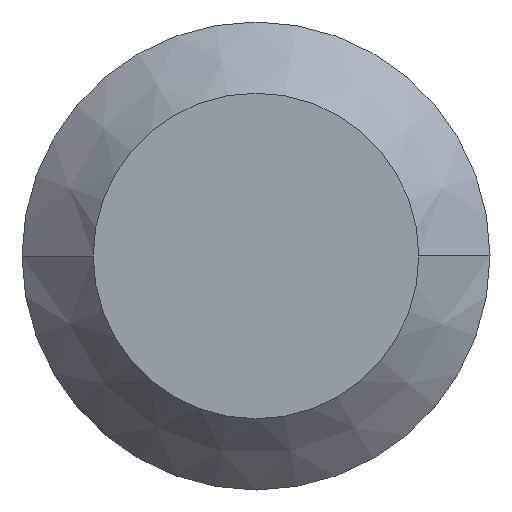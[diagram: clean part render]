
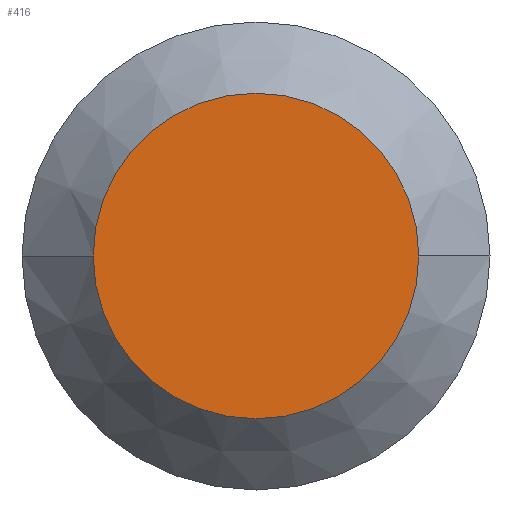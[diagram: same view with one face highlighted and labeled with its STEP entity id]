
A CAD part, front view. The second image highlights one B-rep face of the part: STEP entity #416.
In plain terms, the highlighted planar face has unit normal (0, -1, 0).
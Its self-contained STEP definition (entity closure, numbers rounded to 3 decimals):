
#76 = DIRECTION ( 'NONE',  ( 0., -1., 0. ) ) ;
#170 = DIRECTION ( 'NONE',  ( 0., 1., 0. ) ) ;
#179 = ORIENTED_EDGE ( 'NONE', *, *, #183, .F. ) ;
#183 = EDGE_CURVE ( 'NONE', #732, #239, #968, .T. ) ;
#239 = VERTEX_POINT ( 'NONE', #1116 ) ;
#369 = EDGE_LOOP ( 'NONE', ( #630, #179 ) ) ;
#416 = ADVANCED_FACE ( 'NONE', ( #1322 ), #1022, .T. ) ;
#511 = DIRECTION ( 'NONE',  ( -1., 0., 0. ) ) ;
#582 = CARTESIAN_POINT ( 'NONE',  ( -8., 0., 0. ) ) ;
#630 = ORIENTED_EDGE ( 'NONE', *, *, #1306, .F. ) ;
#732 = VERTEX_POINT ( 'NONE', #942 ) ;
#777 = DIRECTION ( 'NONE',  ( 1., 0., 0. ) ) ;
#843 = AXIS2_PLACEMENT_3D ( 'NONE', #1122, #170, #1005 ) ;
#910 = CIRCLE ( 'NONE', #1365, 8. ) ;
#942 = CARTESIAN_POINT ( 'NONE',  ( 8., 0., 0. ) ) ;
#968 = CIRCLE ( 'NONE', #843, 8. ) ;
#1005 = DIRECTION ( 'NONE',  ( -1., 0., 0. ) ) ;
#1022 = PLANE ( 'NONE',  #1493 ) ;
#1116 = CARTESIAN_POINT ( 'NONE',  ( -8., 0., 0. ) ) ;
#1122 = CARTESIAN_POINT ( 'NONE',  ( 0., 0., 0. ) ) ;
#1196 = DIRECTION ( 'NONE',  ( 0., 1., 0. ) ) ;
#1305 = CARTESIAN_POINT ( 'NONE',  ( 0., 0., 0. ) ) ;
#1306 = EDGE_CURVE ( 'NONE', #239, #732, #910, .T. ) ;
#1322 = FACE_OUTER_BOUND ( 'NONE', #369, .T. ) ;
#1365 = AXIS2_PLACEMENT_3D ( 'NONE', #1305, #1196, #511 ) ;
#1493 = AXIS2_PLACEMENT_3D ( 'NONE', #582, #76, #777 ) ;
